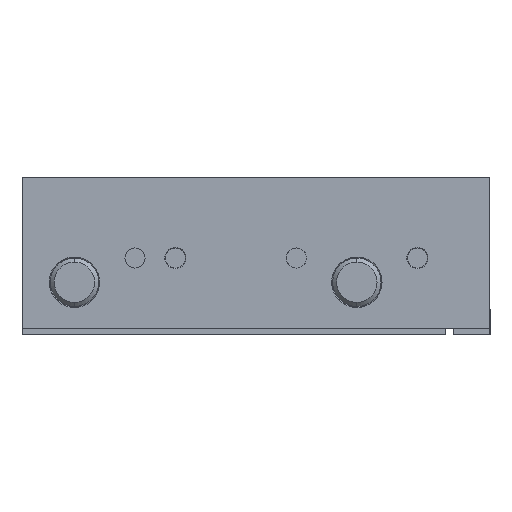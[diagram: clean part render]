
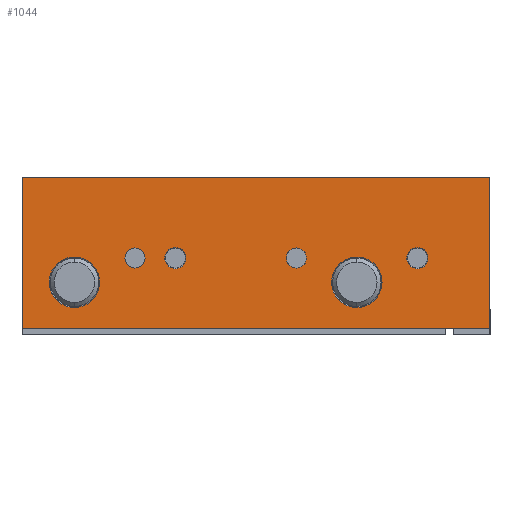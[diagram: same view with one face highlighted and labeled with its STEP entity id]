
A CAD part, front view. The second image highlights one B-rep face of the part: STEP entity #1044.
In plain terms, the highlighted planar face has unit normal (0, -1, 0).
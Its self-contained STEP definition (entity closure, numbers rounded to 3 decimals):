
#257 = VERTEX_POINT ( 'NONE', #3544 ) ;
#260 = EDGE_CURVE ( 'NONE', #257, #261, #3543, .T. ) ;
#261 = VERTEX_POINT ( 'NONE', #3538 ) ;
#288 = EDGE_CURVE ( 'NONE', #357, #361, #3615, .T. ) ;
#357 = VERTEX_POINT ( 'NONE', #3824 ) ;
#361 = VERTEX_POINT ( 'NONE', #3816 ) ;
#818 = VERTEX_POINT ( 'NONE', #4770 ) ;
#819 = EDGE_CURVE ( 'NONE', #826, #818, #4769, .T. ) ;
#826 = VERTEX_POINT ( 'NONE', #4799 ) ;
#870 = EDGE_CURVE ( 'NONE', #875, #876, #4915, .T. ) ;
#875 = VERTEX_POINT ( 'NONE', #4907 ) ;
#876 = VERTEX_POINT ( 'NONE', #4906 ) ;
#882 = EDGE_CURVE ( 'NONE', #963, #883, #4900, .T. ) ;
#883 = VERTEX_POINT ( 'NONE', #4957 ) ;
#890 = VERTEX_POINT ( 'NONE', #4931 ) ;
#949 = EDGE_CURVE ( 'NONE', #890, #950, #5054, .T. ) ;
#950 = VERTEX_POINT ( 'NONE', #5049 ) ;
#963 = VERTEX_POINT ( 'NONE', #5095 ) ;
#978 = EDGE_CURVE ( 'NONE', #950, #890, #5080, .T. ) ;
#986 = EDGE_CURVE ( 'NONE', #883, #963, #5117, .T. ) ;
#1009 = EDGE_CURVE ( 'NONE', #1037, #1010, #5185, .T. ) ;
#1010 = VERTEX_POINT ( 'NONE', #5181 ) ;
#1035 = EDGE_CURVE ( 'NONE', #1036, #1037, #5203, .T. ) ;
#1036 = VERTEX_POINT ( 'NONE', #5199 ) ;
#1037 = VERTEX_POINT ( 'NONE', #5198 ) ;
#1044 = ADVANCED_FACE ( 'NONE', ( #5259, #5254, #5253, #5252, #5251, #5250, #5249 ), #5248, .T. ) ;
#1045 = EDGE_LOOP ( 'NONE', ( #1046, #1048 ) ) ;
#1046 = ORIENTED_EDGE ( 'NONE', *, *, #1047, .F. ) ;
#1047 = EDGE_CURVE ( 'NONE', #361, #357, #5243, .T. ) ;
#1048 = ORIENTED_EDGE ( 'NONE', *, *, #288, .F. ) ;
#1049 = EDGE_LOOP ( 'NONE', ( #1050, #1103 ) ) ;
#1050 = ORIENTED_EDGE ( 'NONE', *, *, #1051, .F. ) ;
#1051 = EDGE_CURVE ( 'NONE', #818, #826, #5238, .T. ) ;
#1068 = EDGE_CURVE ( 'NONE', #1010, #1069, #5282, .T. ) ;
#1069 = VERTEX_POINT ( 'NONE', #5278 ) ;
#1091 = EDGE_CURVE ( 'NONE', #876, #875, #5305, .T. ) ;
#1092 = ORIENTED_EDGE ( 'NONE', *, *, #870, .F. ) ;
#1093 = EDGE_LOOP ( 'NONE', ( #1094, #1095, #1096, #1097 ) ) ;
#1094 = ORIENTED_EDGE ( 'NONE', *, *, #1035, .F. ) ;
#1095 = ORIENTED_EDGE ( 'NONE', *, *, #1117, .F. ) ;
#1096 = ORIENTED_EDGE ( 'NONE', *, *, #1068, .F. ) ;
#1097 = ORIENTED_EDGE ( 'NONE', *, *, #1009, .F. ) ;
#1103 = ORIENTED_EDGE ( 'NONE', *, *, #819, .F. ) ;
#1104 = EDGE_LOOP ( 'NONE', ( #1105, #1107 ) ) ;
#1105 = ORIENTED_EDGE ( 'NONE', *, *, #1106, .F. ) ;
#1106 = EDGE_CURVE ( 'NONE', #261, #257, #5350, .T. ) ;
#1107 = ORIENTED_EDGE ( 'NONE', *, *, #260, .F. ) ;
#1108 = EDGE_LOOP ( 'NONE', ( #1109, #1110 ) ) ;
#1109 = ORIENTED_EDGE ( 'NONE', *, *, #978, .F. ) ;
#1110 = ORIENTED_EDGE ( 'NONE', *, *, #949, .F. ) ;
#1111 = EDGE_LOOP ( 'NONE', ( #1112, #1113 ) ) ;
#1112 = ORIENTED_EDGE ( 'NONE', *, *, #986, .F. ) ;
#1113 = ORIENTED_EDGE ( 'NONE', *, *, #882, .F. ) ;
#1114 = EDGE_LOOP ( 'NONE', ( #1115, #1092 ) ) ;
#1115 = ORIENTED_EDGE ( 'NONE', *, *, #1091, .F. ) ;
#1117 = EDGE_CURVE ( 'NONE', #1069, #1036, #5345, .T. ) ;
#3538 = CARTESIAN_POINT ( 'NONE',  ( 38., 0., -22.625 ) ) ;
#3539 = DIRECTION ( 'NONE',  ( 0., 0., -1. ) ) ;
#3540 = DIRECTION ( 'NONE',  ( 0., -1., 0. ) ) ;
#3541 = CARTESIAN_POINT ( 'NONE',  ( 38., 0., -20. ) ) ;
#3542 = AXIS2_PLACEMENT_3D ( 'NONE', #3541, #3540, #3539 ) ;
#3543 = CIRCLE ( 'NONE', #3542, 2.625 ) ;
#3544 = CARTESIAN_POINT ( 'NONE',  ( 38., 0., -17.375 ) ) ;
#3612 = DIRECTION ( 'NONE',  ( 0., -1., 0. ) ) ;
#3613 = CARTESIAN_POINT ( 'NONE',  ( 83., 0., -26. ) ) ;
#3614 = AXIS2_PLACEMENT_3D ( 'NONE', #3613, #3612, #3655 ) ;
#3615 = CIRCLE ( 'NONE', #3614, 6.25 ) ;
#3655 = DIRECTION ( 'NONE',  ( 0., 0., -1. ) ) ;
#3816 = CARTESIAN_POINT ( 'NONE',  ( 83., 0., -32.25 ) ) ;
#3824 = CARTESIAN_POINT ( 'NONE',  ( 83., 0., -19.75 ) ) ;
#4765 = DIRECTION ( 'NONE',  ( 0., 0., -1. ) ) ;
#4766 = DIRECTION ( 'NONE',  ( 0., -1., 0. ) ) ;
#4767 = CARTESIAN_POINT ( 'NONE',  ( 98., 0., -20. ) ) ;
#4768 = AXIS2_PLACEMENT_3D ( 'NONE', #4767, #4766, #4765 ) ;
#4769 = CIRCLE ( 'NONE', #4768, 2.625 ) ;
#4770 = CARTESIAN_POINT ( 'NONE',  ( 98., 0., -22.625 ) ) ;
#4799 = CARTESIAN_POINT ( 'NONE',  ( 98., 0., -17.375 ) ) ;
#4897 = DIRECTION ( 'NONE',  ( 0., -1., 0. ) ) ;
#4898 = CARTESIAN_POINT ( 'NONE',  ( 28., 0., -20. ) ) ;
#4899 = AXIS2_PLACEMENT_3D ( 'NONE', #4898, #4897, #4958 ) ;
#4900 = CIRCLE ( 'NONE', #4899, 2.5 ) ;
#4906 = CARTESIAN_POINT ( 'NONE',  ( 13., 0., -32.25 ) ) ;
#4907 = CARTESIAN_POINT ( 'NONE',  ( 13., 0., -19.75 ) ) ;
#4912 = DIRECTION ( 'NONE',  ( 0., 0., -1. ) ) ;
#4913 = DIRECTION ( 'NONE',  ( 0., -1., 0. ) ) ;
#4914 = AXIS2_PLACEMENT_3D ( 'NONE', #4920, #4913, #4912 ) ;
#4915 = CIRCLE ( 'NONE', #4914, 6.25 ) ;
#4920 = CARTESIAN_POINT ( 'NONE',  ( 13., 0., -26. ) ) ;
#4931 = CARTESIAN_POINT ( 'NONE',  ( 68., 0., -17.5 ) ) ;
#4957 = CARTESIAN_POINT ( 'NONE',  ( 28., 0., -22.5 ) ) ;
#4958 = DIRECTION ( 'NONE',  ( 0., 0., -1. ) ) ;
#5049 = CARTESIAN_POINT ( 'NONE',  ( 68., 0., -22.5 ) ) ;
#5050 = DIRECTION ( 'NONE',  ( 0., 0., -1. ) ) ;
#5051 = DIRECTION ( 'NONE',  ( 0., -1., 0. ) ) ;
#5052 = CARTESIAN_POINT ( 'NONE',  ( 68., 0., -20. ) ) ;
#5053 = AXIS2_PLACEMENT_3D ( 'NONE', #5052, #5051, #5050 ) ;
#5054 = CIRCLE ( 'NONE', #5053, 2.5 ) ;
#5077 = DIRECTION ( 'NONE',  ( 0., 0., -1. ) ) ;
#5078 = DIRECTION ( 'NONE',  ( 0., -1., 0. ) ) ;
#5079 = AXIS2_PLACEMENT_3D ( 'NONE', #5086, #5078, #5077 ) ;
#5080 = CIRCLE ( 'NONE', #5079, 2.5 ) ;
#5086 = CARTESIAN_POINT ( 'NONE',  ( 68., 0., -20. ) ) ;
#5095 = CARTESIAN_POINT ( 'NONE',  ( 28., 0., -17.5 ) ) ;
#5114 = DIRECTION ( 'NONE',  ( 0., 0., -1. ) ) ;
#5115 = DIRECTION ( 'NONE',  ( 0., -1., 0. ) ) ;
#5116 = AXIS2_PLACEMENT_3D ( 'NONE', #5122, #5115, #5114 ) ;
#5117 = CIRCLE ( 'NONE', #5116, 2.5 ) ;
#5122 = CARTESIAN_POINT ( 'NONE',  ( 28., 0., -20. ) ) ;
#5181 = CARTESIAN_POINT ( 'NONE',  ( 116., 0., 0. ) ) ;
#5182 = DIRECTION ( 'NONE',  ( 1., 0., 0. ) ) ;
#5183 = VECTOR ( 'NONE', #5182, 1000. ) ;
#5184 = CARTESIAN_POINT ( 'NONE',  ( 0., 0., 0. ) ) ;
#5185 = LINE ( 'NONE', #5184, #5183 ) ;
#5198 = CARTESIAN_POINT ( 'NONE',  ( 0., 0., 0. ) ) ;
#5199 = CARTESIAN_POINT ( 'NONE',  ( 0., 0., -37.5 ) ) ;
#5200 = DIRECTION ( 'NONE',  ( 0., 0., 1. ) ) ;
#5201 = VECTOR ( 'NONE', #5200, 1000. ) ;
#5202 = CARTESIAN_POINT ( 'NONE',  ( 0., 0., 0. ) ) ;
#5203 = LINE ( 'NONE', #5202, #5201 ) ;
#5234 = DIRECTION ( 'NONE',  ( 0., 0., -1. ) ) ;
#5235 = DIRECTION ( 'NONE',  ( 0., -1., 0. ) ) ;
#5236 = CARTESIAN_POINT ( 'NONE',  ( 98., 0., -20. ) ) ;
#5237 = AXIS2_PLACEMENT_3D ( 'NONE', #5236, #5235, #5234 ) ;
#5238 = CIRCLE ( 'NONE', #5237, 2.625 ) ;
#5239 = DIRECTION ( 'NONE',  ( 0., 0., -1. ) ) ;
#5240 = DIRECTION ( 'NONE',  ( 0., -1., 0. ) ) ;
#5241 = CARTESIAN_POINT ( 'NONE',  ( 83., 0., -26. ) ) ;
#5242 = AXIS2_PLACEMENT_3D ( 'NONE', #5241, #5240, #5239 ) ;
#5243 = CIRCLE ( 'NONE', #5242, 6.25 ) ;
#5244 = DIRECTION ( 'NONE',  ( 0., 0., -1. ) ) ;
#5245 = DIRECTION ( 'NONE',  ( 0., -1., 0. ) ) ;
#5246 = CARTESIAN_POINT ( 'NONE',  ( 0., 0., -37.5 ) ) ;
#5247 = AXIS2_PLACEMENT_3D ( 'NONE', #5246, #5245, #5244 ) ;
#5248 = PLANE ( 'NONE',  #5247 ) ;
#5249 = FACE_OUTER_BOUND ( 'NONE', #1093, .T. ) ;
#5250 = FACE_BOUND ( 'NONE', #1114, .T. ) ;
#5251 = FACE_BOUND ( 'NONE', #1111, .T. ) ;
#5252 = FACE_BOUND ( 'NONE', #1108, .T. ) ;
#5253 = FACE_BOUND ( 'NONE', #1104, .T. ) ;
#5254 = FACE_BOUND ( 'NONE', #1049, .T. ) ;
#5259 = FACE_BOUND ( 'NONE', #1045, .T. ) ;
#5278 = CARTESIAN_POINT ( 'NONE',  ( 116., 0., -37.5 ) ) ;
#5279 = DIRECTION ( 'NONE',  ( 0., 0., -1. ) ) ;
#5280 = VECTOR ( 'NONE', #5279, 1000. ) ;
#5281 = CARTESIAN_POINT ( 'NONE',  ( 116., 0., 0. ) ) ;
#5282 = LINE ( 'NONE', #5281, #5280 ) ;
#5301 = DIRECTION ( 'NONE',  ( 0., 0., -1. ) ) ;
#5302 = DIRECTION ( 'NONE',  ( 0., -1., 0. ) ) ;
#5303 = CARTESIAN_POINT ( 'NONE',  ( 13., 0., -26. ) ) ;
#5304 = AXIS2_PLACEMENT_3D ( 'NONE', #5303, #5302, #5301 ) ;
#5305 = CIRCLE ( 'NONE', #5304, 6.25 ) ;
#5342 = DIRECTION ( 'NONE',  ( -1., 0., 0. ) ) ;
#5343 = VECTOR ( 'NONE', #5342, 1000. ) ;
#5344 = CARTESIAN_POINT ( 'NONE',  ( 0., 0., -37.5 ) ) ;
#5345 = LINE ( 'NONE', #5344, #5343 ) ;
#5346 = DIRECTION ( 'NONE',  ( 0., 0., -1. ) ) ;
#5347 = DIRECTION ( 'NONE',  ( 0., -1., 0. ) ) ;
#5348 = CARTESIAN_POINT ( 'NONE',  ( 38., 0., -20. ) ) ;
#5349 = AXIS2_PLACEMENT_3D ( 'NONE', #5348, #5347, #5346 ) ;
#5350 = CIRCLE ( 'NONE', #5349, 2.625 ) ;
